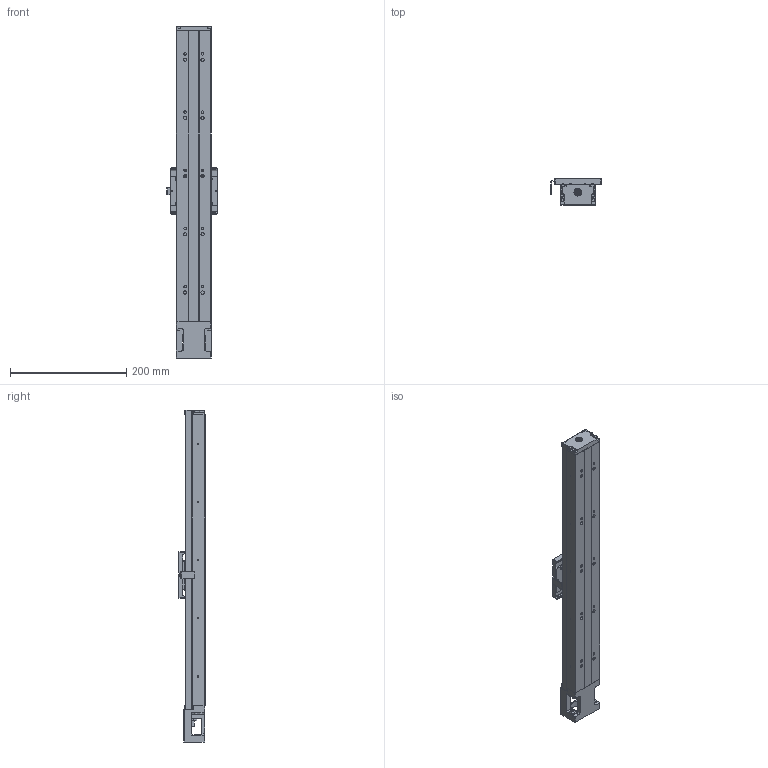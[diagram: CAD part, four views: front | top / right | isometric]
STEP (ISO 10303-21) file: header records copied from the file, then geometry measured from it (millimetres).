
FILE_DESCRIPTION (( 'STEP AP203' ), '1' );
FILE_NAME ('GKAC3060-400-12N-P10-CXXXX-網站用圖.STEP', '2023-04-18T02:19:44', ( '' ), ( '' ), 'SwSTEP 2.0', 'SolidWorks 2019', '' );
FILE_SCHEMA (( 'CONFIG_CONTROL_DESIGN' ));
Length unit declared in the file: millimetre
Products named in the file (3): Group2^GKAC3060-400-12N-P10-CXXXX_defeature-網站用圖_GMT; Group1^GKAC3060-400-12N-P10-CXXXX_defeature-網站用圖_GMT; GKAC3060-400-12N-P10-CXXXX-網站用圖
Assembly tree (2 placements, depth 2):
  GKAC3060-400-12N-P10-CXXXX-網站用圖
    Group1^GKAC3060-400-12N-P10-CXXXX_defeature-網站用圖_GMT
    Group2^GKAC3060-400-12N-P10-CXXXX_defeature-網站用圖_GMT
Bounding box: 86.2 x 45 x 570.5 mm (x, y, z)
Volume: 648289.5 mm3; surface area: 278563.7 mm2
Topology: 3 solids, 9 shells, 1860 faces, 5003 edges, 3109 vertices
Faces by surface type: plane 825, cylinder 558, cone 208, torus 199, sphere 54, bspline 16
Entity records: 59879 total; most frequent: CARTESIAN_POINT 12567, DIRECTION 10310, ORIENTED_EDGE 9784, EDGE_CURVE 4892, AXIS2_PLACEMENT_3D 3973, VERTEX_POINT 3086, LINE 2364, VECTOR 2364
